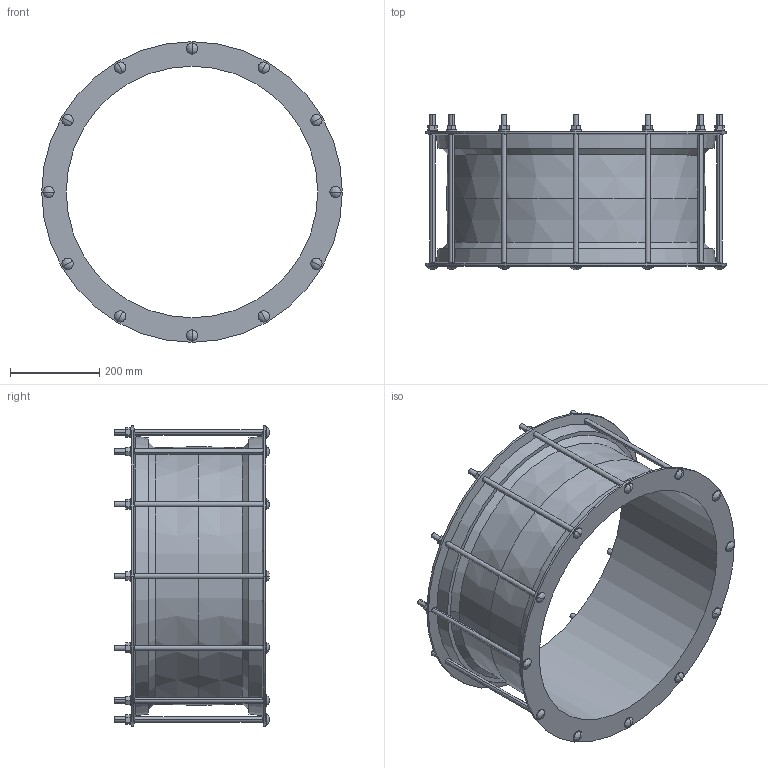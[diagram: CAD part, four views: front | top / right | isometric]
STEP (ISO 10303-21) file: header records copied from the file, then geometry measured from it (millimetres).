
FILE_DESCRIPTION((''),'2;1');
FILE_NAME('MAXIFIT_546_563','2018-12-18T',('mfairey'),('Glynwed Pipe Systems'),'CREO PARAMETRIC BY PTC INC, 2016130','CREO PARAMETRIC BY PTC INC, 2016130','');
FILE_SCHEMA(('CONFIG_CONTROL_DESIGN'));
Length unit declared in the file: millimetre
Products named in the file (1): MAXIFIT_546_563
Bounding box: 675 x 348 x 675 mm (x, y, z)
Volume: 8315252.4 mm3; surface area: 1606939.8 mm2
Topology: 1 solids, 1 shells, 254 faces, 616 edges, 386 vertices
Faces by surface type: plane 112, cylinder 102, bspline 24, cone 16
Entity records: 9146 total; most frequent: CARTESIAN_POINT 3250, DIRECTION 1194, ORIENTED_EDGE 1184, EDGE_CURVE 592, AXIS2_PLACEMENT_3D 428, VERTEX_POINT 386, VECTOR 338, LINE 338
